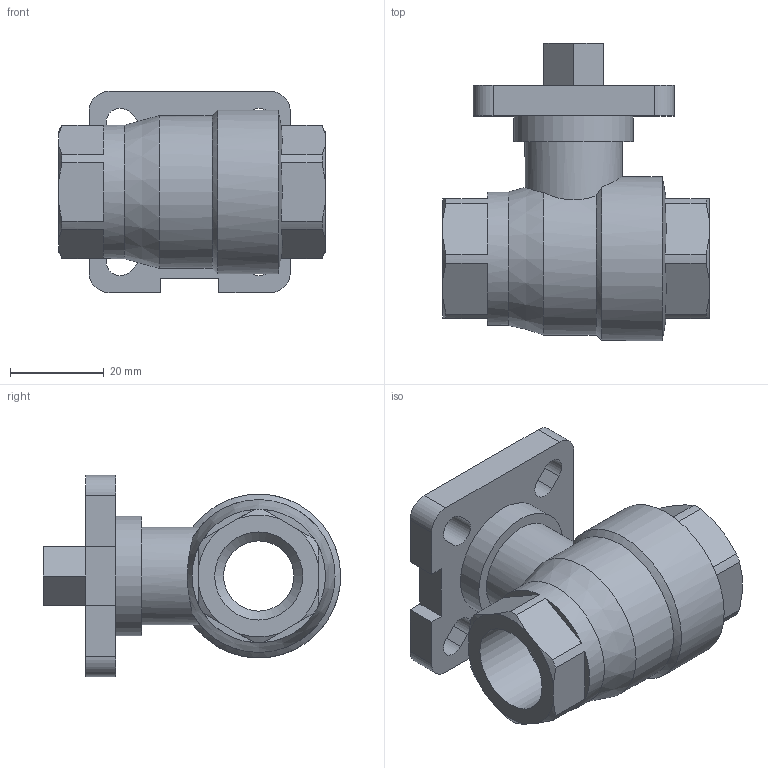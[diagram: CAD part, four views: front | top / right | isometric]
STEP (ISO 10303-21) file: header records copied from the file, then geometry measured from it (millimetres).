
FILE_DESCRIPTION (( 'STEP AP203' ), '1' );
FILE_NAME ('B3.622I0150FVPB0.STEP', '2018-09-27T15:31:40', ( 'dell2' ), ( 'Microsoft' ), 'SwSTEP 2.0', 'SolidWorks 2014', '' );
FILE_SCHEMA (( 'CONFIG_CONTROL_DESIGN' ));
Length unit declared in the file: millimetre
Products named in the file (1): B3.622I0150FVPB0
Bounding box: 57 x 63.5 x 43 mm (x, y, z)
Volume: 46569.5 mm3; surface area: 15331.8 mm2
Topology: 1 solids, 1 shells, 91 faces, 252 edges, 166 vertices
Faces by surface type: plane 48, cylinder 26, cone 17
Full cylindrical faces by diameter (mm): 15 x1, 18.8 x2, 20.8 x1, 25.5 x1, 28.5 x1, 35 x1
Entity records: 3099 total; most frequent: CARTESIAN_POINT 751, ORIENTED_EDGE 472, DIRECTION 458, EDGE_CURVE 236, AXIS2_PLACEMENT_3D 166, VERTEX_POINT 161, VECTOR 126, LINE 126
